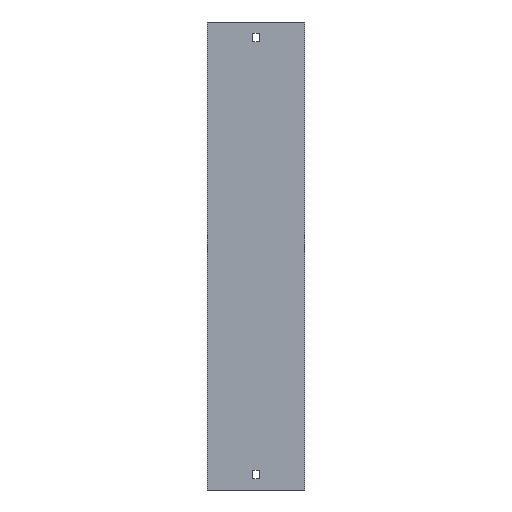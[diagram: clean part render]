
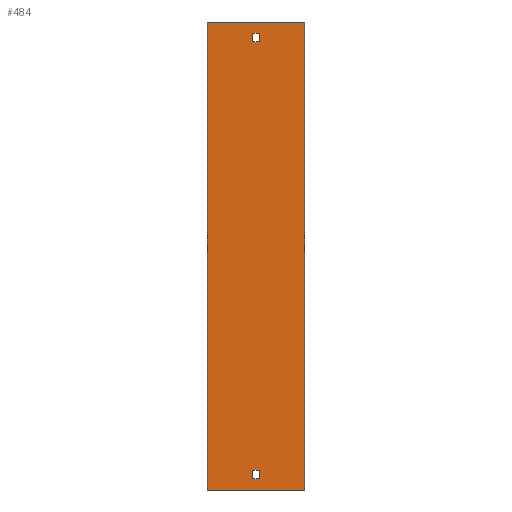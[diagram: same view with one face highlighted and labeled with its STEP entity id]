
A CAD part, front view. The second image highlights one B-rep face of the part: STEP entity #484.
In plain terms, the highlighted planar face has unit normal (0, -1, 0).
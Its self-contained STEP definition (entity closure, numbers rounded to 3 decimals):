
#34 = VERTEX_POINT ( 'NONE', #905 ) ;
#48 = ORIENTED_EDGE ( 'NONE', *, *, #240, .T. ) ;
#55 = LINE ( 'NONE', #1498, #460 ) ;
#74 = CARTESIAN_POINT ( 'NONE',  ( -3.25, 0., 238. ) ) ;
#86 = LINE ( 'NONE', #713, #1659 ) ;
#156 = CARTESIAN_POINT ( 'NONE',  ( 3.25, 0., 238. ) ) ;
#162 = CARTESIAN_POINT ( 'NONE',  ( -3.25, 0., 229. ) ) ;
#170 = EDGE_CURVE ( 'NONE', #1476, #485, #1139, .T. ) ;
#171 = VECTOR ( 'NONE', #778, 1000. ) ;
#174 = CARTESIAN_POINT ( 'NONE',  ( 52., 0., -250. ) ) ;
#179 = EDGE_CURVE ( 'NONE', #533, #652, #638, .T. ) ;
#195 = ORIENTED_EDGE ( 'NONE', *, *, #1573, .F. ) ;
#231 = VECTOR ( 'NONE', #895, 1000. ) ;
#240 = EDGE_CURVE ( 'NONE', #312, #1476, #86, .T. ) ;
#255 = ORIENTED_EDGE ( 'NONE', *, *, #879, .T. ) ;
#257 = CARTESIAN_POINT ( 'NONE',  ( 3.25, 0., 238. ) ) ;
#268 = VECTOR ( 'NONE', #1116, 1000. ) ;
#270 = DIRECTION ( 'NONE',  ( 0., 0., 1. ) ) ;
#312 = VERTEX_POINT ( 'NONE', #1252 ) ;
#321 = ORIENTED_EDGE ( 'NONE', *, *, #792, .F. ) ;
#328 = CARTESIAN_POINT ( 'NONE',  ( -52., 0., -250. ) ) ;
#346 = EDGE_LOOP ( 'NONE', ( #255, #195, #1047, #1408 ) ) ;
#362 = ORIENTED_EDGE ( 'NONE', *, *, #1546, .T. ) ;
#370 = CARTESIAN_POINT ( 'NONE',  ( -3.25, 0., 238. ) ) ;
#404 = ORIENTED_EDGE ( 'NONE', *, *, #775, .F. ) ;
#420 = EDGE_CURVE ( 'NONE', #533, #553, #931, .T. ) ;
#421 = VECTOR ( 'NONE', #1529, 1000. ) ;
#432 = LINE ( 'NONE', #440, #1430 ) ;
#438 = AXIS2_PLACEMENT_3D ( 'NONE', #1324, #1333, #1196 ) ;
#440 = CARTESIAN_POINT ( 'NONE',  ( 52., 0., 250. ) ) ;
#460 = VECTOR ( 'NONE', #574, 1000. ) ;
#463 = CARTESIAN_POINT ( 'NONE',  ( 3.25, 0., -229. ) ) ;
#484 = ADVANCED_FACE ( 'NONE', ( #531, #642, #1052 ), #797, .F. ) ;
#485 = VERTEX_POINT ( 'NONE', #1164 ) ;
#523 = CARTESIAN_POINT ( 'NONE',  ( 3.25, 0., -238. ) ) ;
#528 = EDGE_CURVE ( 'NONE', #34, #987, #623, .T. ) ;
#531 = FACE_OUTER_BOUND ( 'NONE', #346, .T. ) ;
#533 = VERTEX_POINT ( 'NONE', #721 ) ;
#536 = LINE ( 'NONE', #257, #603 ) ;
#553 = VERTEX_POINT ( 'NONE', #328 ) ;
#574 = DIRECTION ( 'NONE',  ( 0., 0., 1. ) ) ;
#575 = CARTESIAN_POINT ( 'NONE',  ( -3.25, 0., 229. ) ) ;
#583 = ORIENTED_EDGE ( 'NONE', *, *, #170, .T. ) ;
#603 = VECTOR ( 'NONE', #270, 1000. ) ;
#613 = ORIENTED_EDGE ( 'NONE', *, *, #528, .F. ) ;
#623 = LINE ( 'NONE', #74, #855 ) ;
#638 = LINE ( 'NONE', #1009, #421 ) ;
#642 = FACE_BOUND ( 'NONE', #1621, .T. ) ;
#643 = EDGE_CURVE ( 'NONE', #1444, #34, #1025, .T. ) ;
#652 = VERTEX_POINT ( 'NONE', #1287 ) ;
#713 = CARTESIAN_POINT ( 'NONE',  ( -3.25, 0., -229. ) ) ;
#721 = CARTESIAN_POINT ( 'NONE',  ( -52., 0., 250. ) ) ;
#775 = EDGE_CURVE ( 'NONE', #987, #888, #1335, .T. ) ;
#778 = DIRECTION ( 'NONE',  ( 1., 0., 0. ) ) ;
#792 = EDGE_CURVE ( 'NONE', #888, #1444, #536, .T. ) ;
#797 = PLANE ( 'NONE',  #438 ) ;
#823 = CARTESIAN_POINT ( 'NONE',  ( 3.25, 0., 229. ) ) ;
#831 = LINE ( 'NONE', #850, #268 ) ;
#850 = CARTESIAN_POINT ( 'NONE',  ( -3.25, 0., -238. ) ) ;
#855 = VECTOR ( 'NONE', #1099, 1000. ) ;
#857 = VERTEX_POINT ( 'NONE', #174 ) ;
#879 = EDGE_CURVE ( 'NONE', #553, #857, #1479, .T. ) ;
#888 = VERTEX_POINT ( 'NONE', #823 ) ;
#890 = DIRECTION ( 'NONE',  ( 0., 0., -1. ) ) ;
#895 = DIRECTION ( 'NONE',  ( -1., 0., 0. ) ) ;
#905 = CARTESIAN_POINT ( 'NONE',  ( -3.25, 0., 238. ) ) ;
#926 = EDGE_CURVE ( 'NONE', #485, #1375, #831, .T. ) ;
#931 = LINE ( 'NONE', #1058, #1312 ) ;
#961 = DIRECTION ( 'NONE',  ( 0., 0., -1. ) ) ;
#987 = VERTEX_POINT ( 'NONE', #575 ) ;
#1001 = DIRECTION ( 'NONE',  ( 1., 0., 0. ) ) ;
#1009 = CARTESIAN_POINT ( 'NONE',  ( -52., 0., 250. ) ) ;
#1025 = LINE ( 'NONE', #370, #231 ) ;
#1047 = ORIENTED_EDGE ( 'NONE', *, *, #179, .F. ) ;
#1052 = FACE_BOUND ( 'NONE', #1671, .T. ) ;
#1058 = CARTESIAN_POINT ( 'NONE',  ( -52., 0., 250. ) ) ;
#1099 = DIRECTION ( 'NONE',  ( 0., 0., -1. ) ) ;
#1116 = DIRECTION ( 'NONE',  ( -1., 0., 0. ) ) ;
#1139 = LINE ( 'NONE', #523, #1308 ) ;
#1164 = CARTESIAN_POINT ( 'NONE',  ( 3.25, 0., -238. ) ) ;
#1196 = DIRECTION ( 'NONE',  ( -1., 0., 0. ) ) ;
#1237 = ORIENTED_EDGE ( 'NONE', *, *, #643, .F. ) ;
#1246 = VECTOR ( 'NONE', #1349, 1000. ) ;
#1252 = CARTESIAN_POINT ( 'NONE',  ( -3.25, 0., -229. ) ) ;
#1287 = CARTESIAN_POINT ( 'NONE',  ( 52., 0., 250. ) ) ;
#1308 = VECTOR ( 'NONE', #890, 1000. ) ;
#1312 = VECTOR ( 'NONE', #1314, 1000. ) ;
#1314 = DIRECTION ( 'NONE',  ( 0., 0., -1. ) ) ;
#1324 = CARTESIAN_POINT ( 'NONE',  ( -52., 0., 250. ) ) ;
#1333 = DIRECTION ( 'NONE',  ( 0., 1., 0. ) ) ;
#1335 = LINE ( 'NONE', #162, #171 ) ;
#1349 = DIRECTION ( 'NONE',  ( 1., 0., 0. ) ) ;
#1375 = VERTEX_POINT ( 'NONE', #1596 ) ;
#1408 = ORIENTED_EDGE ( 'NONE', *, *, #420, .T. ) ;
#1430 = VECTOR ( 'NONE', #961, 1000. ) ;
#1444 = VERTEX_POINT ( 'NONE', #156 ) ;
#1476 = VERTEX_POINT ( 'NONE', #463 ) ;
#1479 = LINE ( 'NONE', #1495, #1246 ) ;
#1495 = CARTESIAN_POINT ( 'NONE',  ( -52., 0., -250. ) ) ;
#1498 = CARTESIAN_POINT ( 'NONE',  ( -3.25, 0., -238. ) ) ;
#1501 = ORIENTED_EDGE ( 'NONE', *, *, #926, .T. ) ;
#1529 = DIRECTION ( 'NONE',  ( 1., 0., 0. ) ) ;
#1546 = EDGE_CURVE ( 'NONE', #1375, #312, #55, .T. ) ;
#1573 = EDGE_CURVE ( 'NONE', #652, #857, #432, .T. ) ;
#1596 = CARTESIAN_POINT ( 'NONE',  ( -3.25, 0., -238. ) ) ;
#1621 = EDGE_LOOP ( 'NONE', ( #404, #613, #1237, #321 ) ) ;
#1659 = VECTOR ( 'NONE', #1001, 1000. ) ;
#1671 = EDGE_LOOP ( 'NONE', ( #362, #48, #583, #1501 ) ) ;
